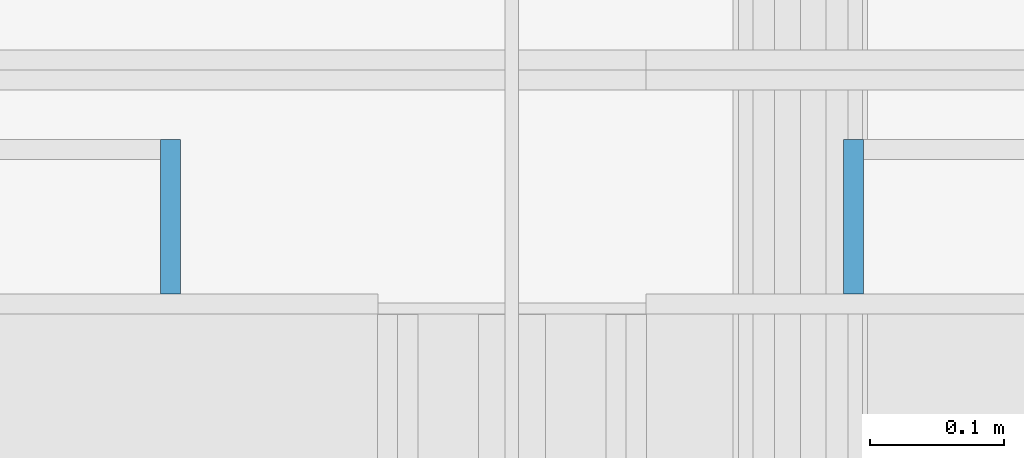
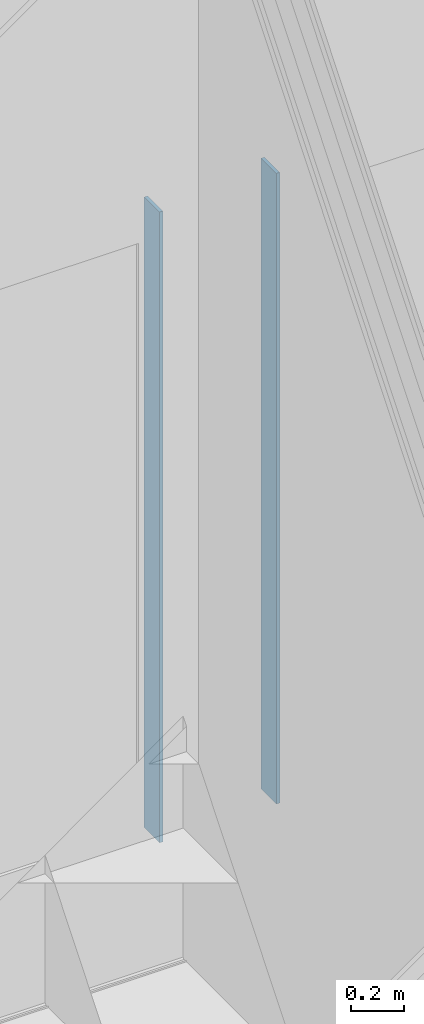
# One storey, part 280 of 583: 2 slabs.
"""IFC2X3 building model written with IfcOpenShell, lengths in metres."""

from ifc_helpers import new_model, entity, si_unit, converted_unit, derived_unit, money_unit, direction, frame, origin_with_axes, place, context, subcontext, project, spatial, faceted_brep, material, type_object, element, save


model = new_model("IFC2X3")

# Units and contexts
model_context = context("Model", 3, precision=1e-05, world=origin_with_axes(), true_north=direction((0.0, 1.0)))
body_context = subcontext(model_context, "Body", "Model", "MODEL_VIEW", scale=1.0)
ifc_project = project(units=[si_unit("LENGTHUNIT", "METRE"), si_unit("AREAUNIT", "SQUARE_METRE"), si_unit("VOLUMEUNIT", "CUBIC_METRE"), si_unit("ABSORBEDDOSEUNIT", "GRAY"), si_unit("AMOUNTOFSUBSTANCEUNIT", "MOLE"), si_unit("DOSEEQUIVALENTUNIT", "SIEVERT"), si_unit("ELECTRICCAPACITANCEUNIT", "FARAD"), si_unit("ELECTRICCHARGEUNIT", "COULOMB"), si_unit("ELECTRICCONDUCTANCEUNIT", "SIEMENS"), si_unit("ELECTRICCURRENTUNIT", "AMPERE"), si_unit("ELECTRICRESISTANCEUNIT", "OHM"), si_unit("ELECTRICVOLTAGEUNIT", "VOLT"), si_unit("ENERGYUNIT", "JOULE"), si_unit("FORCEUNIT", "NEWTON"), si_unit("FREQUENCYUNIT", "HERTZ"), si_unit("ILLUMINANCEUNIT", "LUX"), si_unit("INDUCTANCEUNIT", "HENRY"), si_unit("LUMINOUSFLUXUNIT", "LUMEN"), si_unit("LUMINOUSINTENSITYUNIT", "CANDELA"), si_unit("MAGNETICFLUXDENSITYUNIT", "TESLA"), si_unit("MAGNETICFLUXUNIT", "WEBER"), si_unit("MASSUNIT", "GRAM"), converted_unit("PLANEANGLEUNIT", "degree", entity("IfcReal", 0.0174532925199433), si_unit("PLANEANGLEUNIT", "RADIAN"), dimensions=[0, 0, 0, 0, 0, 0, 0]), si_unit("POWERUNIT", "WATT"), si_unit("PRESSUREUNIT", "PASCAL"), si_unit("RADIOACTIVITYUNIT", "BECQUEREL"), si_unit("SOLIDANGLEUNIT", "STERADIAN"), si_unit("THERMODYNAMICTEMPERATUREUNIT", "KELVIN"), si_unit("TIMEUNIT", "SECOND"), derived_unit("ACCELERATIONUNIT", [(si_unit("LENGTHUNIT", "METRE"), 1), (si_unit("TIMEUNIT", "SECOND"), -2)]), derived_unit("ANGULARVELOCITYUNIT", [(converted_unit("PLANEANGLEUNIT", "degree", entity("IfcReal", 0.0174532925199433), si_unit("PLANEANGLEUNIT", "RADIAN"), dimensions=[0, 0, 0, 0, 0, 0, 0]), 1), (si_unit("TIMEUNIT", "SECOND"), -1)]), derived_unit("CURVATUREUNIT", [(converted_unit("PLANEANGLEUNIT", "degree", entity("IfcReal", 0.0174532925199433), si_unit("PLANEANGLEUNIT", "RADIAN"), dimensions=[0, 0, 0, 0, 0, 0, 0]), 1), (si_unit("LENGTHUNIT", "METRE"), -1)]), derived_unit("DYNAMICVISCOSITYUNIT", [(si_unit("PRESSUREUNIT", "PASCAL"), 1), (si_unit("TIMEUNIT", "SECOND"), 1)]), derived_unit("HEATFLUXDENSITYUNIT", [(si_unit("POWERUNIT", "WATT"), 1), (si_unit("LENGTHUNIT", "METRE"), -2)]), derived_unit("HEATINGVALUEUNIT", [(si_unit("ENERGYUNIT", "JOULE"), 1), (si_unit("MASSUNIT", "GRAM"), -1)]), derived_unit("INTEGERCOUNTRATEUNIT", [(si_unit("TIMEUNIT", "SECOND"), -1)]), derived_unit("IONCONCENTRATIONUNIT", [(si_unit("MASSUNIT", "GRAM"), 1), (si_unit("VOLUMEUNIT", "CUBIC_METRE"), -1)]), derived_unit("ISOTHERMALMOISTURECAPACITYUNIT", [(si_unit("VOLUMEUNIT", "CUBIC_METRE"), 1), (si_unit("MASSUNIT", "GRAM"), -1)]), derived_unit("KINEMATICVISCOSITYUNIT", [(si_unit("AREAUNIT", "SQUARE_METRE"), 1), (si_unit("TIMEUNIT", "SECOND"), -1)]), derived_unit("LINEARFORCEUNIT", [(si_unit("FORCEUNIT", "NEWTON"), 1), (si_unit("LENGTHUNIT", "METRE"), -1)]), derived_unit("LINEARMOMENTUNIT", [(si_unit("FORCEUNIT", "NEWTON"), 1), (si_unit("LENGTHUNIT", "METRE"), -1)]), derived_unit("LINEARSTIFFNESSUNIT", [(si_unit("FORCEUNIT", "NEWTON"), 1), (si_unit("LENGTHUNIT", "METRE"), -1)]), derived_unit("LINEARVELOCITYUNIT", [(si_unit("LENGTHUNIT", "METRE"), 1), (si_unit("TIMEUNIT", "SECOND"), -1)]), derived_unit("LUMINOUSINTENSITYDISTRIBUTIONUNIT", [(si_unit("LUMINOUSINTENSITYUNIT", "CANDELA"), 1), (si_unit("LUMINOUSFLUXUNIT", "LUMEN"), -1)]), derived_unit("MASSDENSITYUNIT", [(si_unit("MASSUNIT", "GRAM"), 1), (si_unit("VOLUMEUNIT", "CUBIC_METRE"), -1)]), derived_unit("MASSFLOWRATEUNIT", [(si_unit("MASSUNIT", "GRAM"), 1), (si_unit("TIMEUNIT", "SECOND"), -1)]), derived_unit("MASSPERLENGTHUNIT", [(si_unit("MASSUNIT", "GRAM"), 1), (si_unit("LENGTHUNIT", "METRE"), -1)]), derived_unit("MODULUSOFELASTICITYUNIT", [(si_unit("FORCEUNIT", "NEWTON"), 1), (si_unit("AREAUNIT", "SQUARE_METRE"), -1)]), derived_unit("MODULUSOFLINEARSUBGRADEREACTIONUNIT", [(si_unit("FORCEUNIT", "NEWTON"), 1), (si_unit("LENGTHUNIT", "METRE"), -2)]), derived_unit("MODULUSOFROTATIONALSUBGRADEREACTIONUNIT", [(si_unit("FORCEUNIT", "NEWTON"), 1), (si_unit("LENGTHUNIT", "METRE"), 1)]), derived_unit("MODULUSOFSUBGRADEREACTIONUNIT", [(si_unit("FORCEUNIT", "NEWTON"), 1), (si_unit("VOLUMEUNIT", "CUBIC_METRE"), -1)]), derived_unit("MOISTUREDIFFUSIVITYUNIT", [(si_unit("VOLUMEUNIT", "CUBIC_METRE"), 1), (si_unit("TIMEUNIT", "SECOND"), -1)]), derived_unit("MOLECULARWEIGHTUNIT", [(si_unit("MASSUNIT", "GRAM"), 1), (si_unit("AMOUNTOFSUBSTANCEUNIT", "MOLE"), -1)]), derived_unit("PLANARFORCEUNIT", [(si_unit("FORCEUNIT", "NEWTON"), 1), (si_unit("LENGTHUNIT", "METRE"), -2)]), derived_unit("ROTATIONALFREQUENCYUNIT", [(si_unit("TIMEUNIT", "SECOND"), -1)]), derived_unit("ROTATIONALMASSUNIT", [(si_unit("MASSUNIT", "GRAM"), 1), (si_unit("LENGTHUNIT", "METRE"), 2)]), derived_unit("ROTATIONALSTIFFNESSUNIT", [(si_unit("FORCEUNIT", "NEWTON"), 1), (si_unit("LENGTHUNIT", "METRE"), 1), (converted_unit("PLANEANGLEUNIT", "degree", entity("IfcReal", 0.0174532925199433), si_unit("PLANEANGLEUNIT", "RADIAN"), dimensions=[0, 0, 0, 0, 0, 0, 0]), -1)]), derived_unit("SECTIONAREAINTEGRALUNIT", [(si_unit("LENGTHUNIT", "METRE"), 5)]), derived_unit("SECTIONMODULUSUNIT", [(si_unit("LENGTHUNIT", "METRE"), 3)]), derived_unit("SHEARMODULUSUNIT", [(si_unit("FORCEUNIT", "NEWTON"), 1), (si_unit("AREAUNIT", "SQUARE_METRE"), -1)]), derived_unit("SOUNDPOWERUNIT", [(si_unit("ENERGYUNIT", "JOULE"), 1), (si_unit("TIMEUNIT", "SECOND"), -1)]), derived_unit("SPECIFICHEATCAPACITYUNIT", [(si_unit("FORCEUNIT", "NEWTON"), 1), (si_unit("MASSUNIT", "GRAM"), -1), (si_unit("THERMODYNAMICTEMPERATUREUNIT", "KELVIN"), -1)]), derived_unit("TEMPERATUREGRADIENTUNIT", [(si_unit("THERMODYNAMICTEMPERATUREUNIT", "KELVIN"), 1), (si_unit("LENGTHUNIT", "METRE"), -1)]), derived_unit("THERMALADMITTANCEUNIT", [(si_unit("POWERUNIT", "WATT"), 1), (si_unit("AREAUNIT", "SQUARE_METRE"), -1), (si_unit("THERMODYNAMICTEMPERATUREUNIT", "KELVIN"), -1)]), derived_unit("THERMALCONDUCTANCEUNIT", [(si_unit("POWERUNIT", "WATT"), 1), (si_unit("LENGTHUNIT", "METRE"), -1), (si_unit("THERMODYNAMICTEMPERATUREUNIT", "KELVIN"), -1)]), derived_unit("THERMALEXPANSIONCOEFFICIENTUNIT", [(si_unit("THERMODYNAMICTEMPERATUREUNIT", "KELVIN"), -1)]), derived_unit("THERMALRESISTANCEUNIT", [(si_unit("AREAUNIT", "SQUARE_METRE"), 1), (si_unit("POWERUNIT", "WATT"), -1)]), derived_unit("THERMALTRANSMITTANCEUNIT", [(si_unit("POWERUNIT", "WATT"), 1), (si_unit("AREAUNIT", "SQUARE_METRE"), -1), (si_unit("THERMODYNAMICTEMPERATUREUNIT", "KELVIN"), -1)]), derived_unit("TORQUEUNIT", [(si_unit("FORCEUNIT", "NEWTON"), 1), (si_unit("LENGTHUNIT", "METRE"), 1)]), derived_unit("VAPORPERMEABILITYUNIT", [(si_unit("MASSUNIT", "GRAM"), 1), (si_unit("TIMEUNIT", "SECOND"), -1)]), derived_unit("VOLUMETRICFLOWRATEUNIT", [(si_unit("VOLUMEUNIT", "CUBIC_METRE"), 1), (si_unit("TIMEUNIT", "SECOND"), -1)]), derived_unit("WARPINGCONSTANTUNIT", [(si_unit("LENGTHUNIT", "METRE"), 6)]), derived_unit("WARPINGMOMENTUNIT", [(si_unit("FORCEUNIT", "NEWTON"), 1), (si_unit("LENGTHUNIT", "METRE"), 2)]), money_unit("GBP")], contexts=[model_context])

# Site, building, storey
site_placement = place(None, origin_with_axes())
site = spatial("IfcSite", under=ifc_project, at=site_placement, Name="Site", CompositionType="ELEMENT")
building_placement = place(site_placement, origin_with_axes())
building = spatial("IfcBuilding", under=site, at=building_placement, Name="Building01", CompositionType="ELEMENT")
storey_placement = place(building_placement, frame((0.0, 0.0, 20.78), z_axis=(0.0, 0.0, 1.0), x_axis=(1.0, 0.0, 0.0)))
storey = spatial("IfcBuildingStorey", under=building, at=storey_placement, Name="RL", CompositionType="ELEMENT", Elevation=20.78)

# Slabs
ifc_material = material(Name="A_BSUK_CeilingSoffitFinishes_Suspended")
slab_type = type_object("IfcSlabType", Name="A-FloorsSlabs A_BSUK_Slabs", PredefinedType="FLOOR")
placement = place(storey_placement, frame((0.0, 0.0, -20.78), z_axis=(0.0, 0.0, 1.0), x_axis=(1.0, 0.0, 0.0)))
element("IfcSlab", 1, at=placement, inside=storey, type_object=slab_type, material=ifc_material, Name="A-FloorsSlabs A_BSUK_Slabs", ObjectType="CompoundSlabLeaf", context=body_context, shape_type="Brep", body=[
    faceted_brep([(7.1884, 20.195, 17.65), (7.2034, 20.195, 17.65), (7.2034, 20.31, 17.65), (7.1884, 20.31, 17.65), (7.1884, 20.195, 14.75), (7.2034, 20.195, 14.75), (7.1884, 20.31, 14.75), (7.2034, 20.31, 14.75)], [[[0, 1, 2, 3]], [[4, 5, 1, 0]], [[6, 7, 5, 4]], [[3, 2, 7, 6]], [[1, 5, 7, 2]], [[3, 6, 4, 0]]]),
])
element("IfcSlab", 2, at=placement, inside=storey, type_object=slab_type, material=ifc_material, Name="A-FloorsSlabs A_BSUK_Slabs", ObjectType="CompoundSlabLeaf", context=body_context, shape_type="Brep", body=[
    faceted_brep([(7.6966, 20.195, 17.65), (7.7116, 20.195, 17.65), (7.7116, 20.31, 17.65), (7.6966, 20.31, 17.65), (7.6966, 20.195, 14.75), (7.7116, 20.195, 14.75), (7.6966, 20.31, 14.75), (7.7116, 20.31, 14.75)], [[[0, 1, 2, 3]], [[4, 5, 1, 0]], [[6, 7, 5, 4]], [[3, 2, 7, 6]], [[1, 5, 7, 2]], [[3, 6, 4, 0]]]),
])

save(model, "model.ifc")
